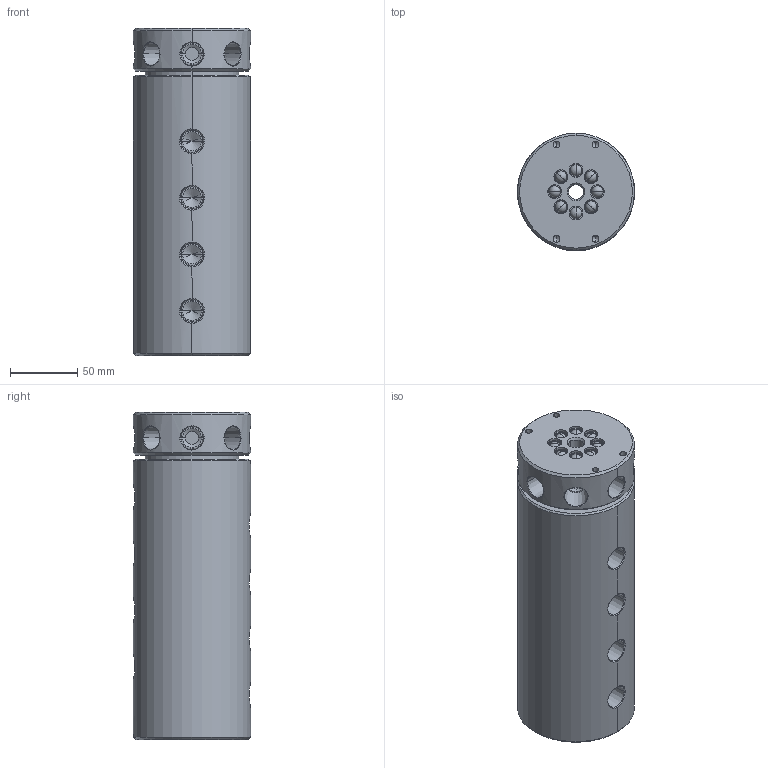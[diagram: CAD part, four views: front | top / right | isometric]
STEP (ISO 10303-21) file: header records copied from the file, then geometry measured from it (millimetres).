
FILE_DESCRIPTION (( 'STEP AP214' ), '1' );
FILE_NAME ('LT(M)-2381.STEP', '2013-01-03T17:21:51', ( '' ), ( '' ), 'SwSTEP 2.0', 'SolidWorks 2011', '' );
FILE_SCHEMA (( 'AUTOMOTIVE_DESIGN' ));
Length unit declared in the file: inch
Products named in the file (1): LT(M)-2381
Bounding box: 87.3 x 87.3 x 243.97 mm (x, y, z)
Volume: 1343767.6 mm3; surface area: 116933.6 mm2
Topology: 1 solids, 1 shells, 352 faces, 846 edges, 507 vertices
Faces by surface type: cylinder 146, cone 100, plane 56, bspline 32, sphere 16, torus 2
Entity records: 16183 total; most frequent: CARTESIAN_POINT 6527, DIRECTION 1628, ORIENTED_EDGE 1552, EDGE_CURVE 776, AXIS2_PLACEMENT_3D 679, VERTEX_POINT 491, EDGE_LOOP 419, CIRCLE 358
